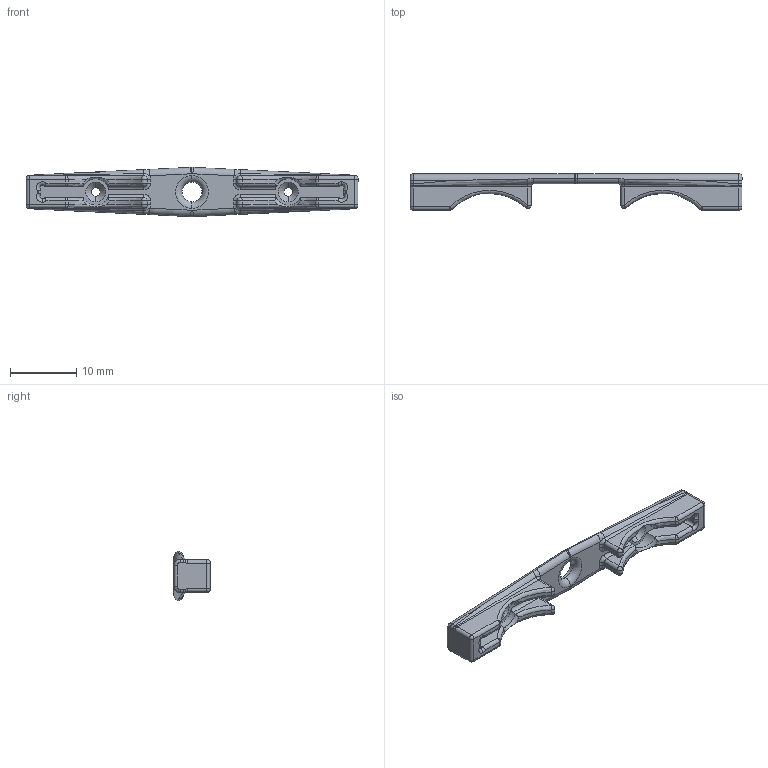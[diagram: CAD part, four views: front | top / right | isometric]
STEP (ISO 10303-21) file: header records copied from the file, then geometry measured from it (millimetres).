
FILE_DESCRIPTION (( 'STEP AP214' ), '1' );
FILE_NAME ('holder_hc-sr04.STEP', '2019-12-27T17:32:38', ( '' ), ( '' ), 'SwSTEP 2.0', 'SolidWorks 2016', '' );
FILE_SCHEMA (( 'AUTOMOTIVE_DESIGN' ));
Length unit declared in the file: millimetre
Products named in the file (1): holder_hc-sr04
Bounding box: 50 x 5.5 x 7.44 mm (x, y, z)
Volume: 755.3 mm3; surface area: 1139 mm2
Topology: 1 solids, 1 shells, 194 faces, 480 edges, 268 vertices
Faces by surface type: cylinder 84, torus 38, plane 28, sphere 20, bspline 20, cone 4
Entity records: 6218 total; most frequent: CARTESIAN_POINT 1873, DIRECTION 942, ORIENTED_EDGE 904, EDGE_CURVE 452, AXIS2_PLACEMENT_3D 397, VERTEX_POINT 260, CIRCLE 222, EDGE_LOOP 200
